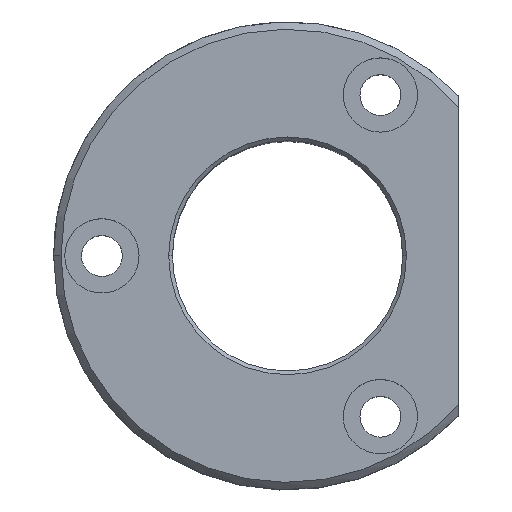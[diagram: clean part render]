
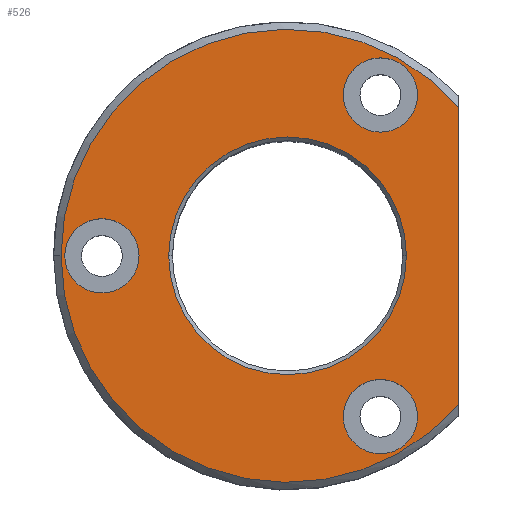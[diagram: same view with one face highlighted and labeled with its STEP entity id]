
A CAD part, top view. The second image highlights one B-rep face of the part: STEP entity #526.
In plain terms, the highlighted planar face has unit normal (0, 0, 1).
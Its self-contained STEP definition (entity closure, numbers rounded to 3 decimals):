
#87=CARTESIAN_POINT('Vertex',(23.,20.031,25.)) ;
#90=CARTESIAN_POINT('Line Origine',(23.,0.,25.)) ;
#94=CARTESIAN_POINT('Vertex',(23.,-20.031,25.)) ;
#424=CARTESIAN_POINT('Vertex',(-30.5,0.,25.)) ;
#427=CARTESIAN_POINT('Axis2P3D Location',(0.,0.,25.)) ;
#439=CARTESIAN_POINT('Axis2P3D Location',(16.,0.,25.)) ;
#444=CARTESIAN_POINT('Axis2P3D Location',(0.,0.,25.)) ;
#454=CARTESIAN_POINT('Axis2P3D Location',(-25.,0.,25.)) ;
#458=CARTESIAN_POINT('Vertex',(-30.,0.,25.)) ;
#460=CARTESIAN_POINT('Vertex',(-20.,0.,25.)) ;
#463=CARTESIAN_POINT('Axis2P3D Location',(-25.,0.,25.)) ;
#472=CARTESIAN_POINT('Axis2P3D Location',(12.5,-21.651,25.)) ;
#476=CARTESIAN_POINT('Vertex',(7.5,-21.651,25.)) ;
#478=CARTESIAN_POINT('Vertex',(17.5,-21.651,25.)) ;
#481=CARTESIAN_POINT('Axis2P3D Location',(12.5,-21.651,25.)) ;
#490=CARTESIAN_POINT('Axis2P3D Location',(12.5,21.651,25.)) ;
#494=CARTESIAN_POINT('Vertex',(7.5,21.651,25.)) ;
#496=CARTESIAN_POINT('Vertex',(17.5,21.651,25.)) ;
#499=CARTESIAN_POINT('Axis2P3D Location',(12.5,21.651,25.)) ;
#508=CARTESIAN_POINT('Axis2P3D Location',(0.,0.,25.)) ;
#512=CARTESIAN_POINT('Vertex',(-16.,0.,25.)) ;
#514=CARTESIAN_POINT('Vertex',(16.,0.,25.)) ;
#517=CARTESIAN_POINT('Axis2P3D Location',(0.,0.,25.)) ;
#91=DIRECTION('Vector Direction',(0.,-1.,0.)) ;
#428=DIRECTION('Axis2P3D Direction',(0.,0.,-1.)) ;
#440=DIRECTION('Axis2P3D Direction',(0.,-0.,1.)) ;
#441=DIRECTION('Axis2P3D XDirection',(1.,0.,0.)) ;
#445=DIRECTION('Axis2P3D Direction',(0.,-0.,1.)) ;
#455=DIRECTION('Axis2P3D Direction',(0.,-0.,1.)) ;
#464=DIRECTION('Axis2P3D Direction',(0.,-0.,1.)) ;
#473=DIRECTION('Axis2P3D Direction',(0.,-0.,1.)) ;
#482=DIRECTION('Axis2P3D Direction',(0.,-0.,1.)) ;
#491=DIRECTION('Axis2P3D Direction',(0.,-0.,1.)) ;
#500=DIRECTION('Axis2P3D Direction',(0.,-0.,1.)) ;
#509=DIRECTION('Axis2P3D Direction',(0.,-0.,1.)) ;
#518=DIRECTION('Axis2P3D Direction',(0.,-0.,1.)) ;
#429=AXIS2_PLACEMENT_3D('Circle Axis2P3D',#427,#428,$) ;
#442=AXIS2_PLACEMENT_3D('Plane Axis2P3D',#439,#440,#441) ;
#446=AXIS2_PLACEMENT_3D('Circle Axis2P3D',#444,#445,$) ;
#456=AXIS2_PLACEMENT_3D('Circle Axis2P3D',#454,#455,$) ;
#465=AXIS2_PLACEMENT_3D('Circle Axis2P3D',#463,#464,$) ;
#474=AXIS2_PLACEMENT_3D('Circle Axis2P3D',#472,#473,$) ;
#483=AXIS2_PLACEMENT_3D('Circle Axis2P3D',#481,#482,$) ;
#492=AXIS2_PLACEMENT_3D('Circle Axis2P3D',#490,#491,$) ;
#501=AXIS2_PLACEMENT_3D('Circle Axis2P3D',#499,#500,$) ;
#510=AXIS2_PLACEMENT_3D('Circle Axis2P3D',#508,#509,$) ;
#519=AXIS2_PLACEMENT_3D('Circle Axis2P3D',#517,#518,$) ;
#450=ORIENTED_EDGE('',*,*,#96,.F.) ;
#451=ORIENTED_EDGE('',*,*,#431,.T.) ;
#452=ORIENTED_EDGE('',*,*,#448,.T.) ;
#469=ORIENTED_EDGE('',*,*,#462,.F.) ;
#470=ORIENTED_EDGE('',*,*,#467,.F.) ;
#487=ORIENTED_EDGE('',*,*,#480,.F.) ;
#488=ORIENTED_EDGE('',*,*,#485,.F.) ;
#505=ORIENTED_EDGE('',*,*,#498,.F.) ;
#506=ORIENTED_EDGE('',*,*,#503,.F.) ;
#523=ORIENTED_EDGE('',*,*,#516,.F.) ;
#524=ORIENTED_EDGE('',*,*,#521,.F.) ;
#471=FACE_BOUND('',#468,.T.) ;
#489=FACE_BOUND('',#486,.T.) ;
#507=FACE_BOUND('',#504,.T.) ;
#525=FACE_BOUND('',#522,.T.) ;
#92=VECTOR('Line Direction',#91,1.) ;
#526=ADVANCED_FACE('737-25',(#453,#471,#489,#507,#525),#443,.T.) ;
#430=CIRCLE('generated circle',#429,30.5) ;
#447=CIRCLE('generated circle',#446,30.5) ;
#457=CIRCLE('generated circle',#456,5.) ;
#466=CIRCLE('generated circle',#465,5.) ;
#475=CIRCLE('generated circle',#474,5.) ;
#484=CIRCLE('generated circle',#483,5.) ;
#493=CIRCLE('generated circle',#492,5.) ;
#502=CIRCLE('generated circle',#501,5.) ;
#511=CIRCLE('generated circle',#510,16.) ;
#520=CIRCLE('generated circle',#519,16.) ;
#96=EDGE_CURVE('',#88,#95,#93,.T.) ;
#431=EDGE_CURVE('',#88,#425,#430,.F.) ;
#448=EDGE_CURVE('',#425,#95,#447,.T.) ;
#462=EDGE_CURVE('',#459,#461,#457,.T.) ;
#467=EDGE_CURVE('',#461,#459,#466,.T.) ;
#480=EDGE_CURVE('',#477,#479,#475,.T.) ;
#485=EDGE_CURVE('',#479,#477,#484,.T.) ;
#498=EDGE_CURVE('',#495,#497,#493,.T.) ;
#503=EDGE_CURVE('',#497,#495,#502,.T.) ;
#516=EDGE_CURVE('',#513,#515,#511,.T.) ;
#521=EDGE_CURVE('',#515,#513,#520,.T.) ;
#449=EDGE_LOOP('',(#450,#451,#452)) ;
#468=EDGE_LOOP('',(#469,#470)) ;
#486=EDGE_LOOP('',(#487,#488)) ;
#504=EDGE_LOOP('',(#505,#506)) ;
#522=EDGE_LOOP('',(#523,#524)) ;
#453=FACE_OUTER_BOUND('',#449,.T.) ;
#93=LINE('Line',#90,#92) ;
#443=PLANE('Plane',#442) ;
#88=VERTEX_POINT('',#87) ;
#95=VERTEX_POINT('',#94) ;
#425=VERTEX_POINT('',#424) ;
#459=VERTEX_POINT('',#458) ;
#461=VERTEX_POINT('',#460) ;
#477=VERTEX_POINT('',#476) ;
#479=VERTEX_POINT('',#478) ;
#495=VERTEX_POINT('',#494) ;
#497=VERTEX_POINT('',#496) ;
#513=VERTEX_POINT('',#512) ;
#515=VERTEX_POINT('',#514) ;
